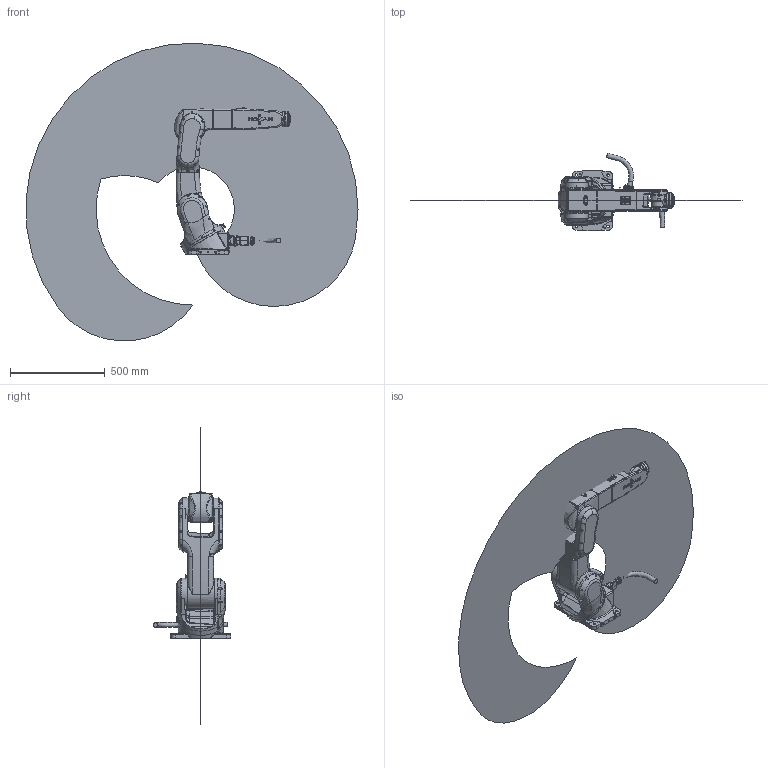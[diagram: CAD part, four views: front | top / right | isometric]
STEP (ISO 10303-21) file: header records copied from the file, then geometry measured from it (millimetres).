
FILE_DESCRIPTION(/* description */ (''),/* implementation_level */ '2;1');
FILE_NAME(/* name */ 'XB12s／_-R906-S1-XBC5线束 简化模型(20220426).stp',/* time_stamp */ '2022-04-26T15:43:50+08:00',/* author */ (''),/* organization */ (''),/* preprocessor_version */ 'ST-DEVELOPER v16',/* originating_system */ 'SIEMENS PLM Software NX 10.0',/* authorisation */ '');
FILE_SCHEMA (('CONFIG_CONTROL_DESIGN'));
Products named in the file (9): XB12-3Dwork-B; XB7&12-xiaobiqian-Blogo; XB7&12-xiaobihou-A; XB7&12-yao-A; XB12-base-B; XB12-shuchu-A; XB7&12-shouwan-A; XB7&12-dabi-B; XB12s／_-R906-S1-XBC5线束 \X2\7B80
53166A21578B\X0\(20220426)
Assembly tree (8 placements, depth 2):
  XB12s／_-R906-S1-XBC5线束 \X2\7B80
53166A21578B\X0\(20220426)
    XB7&12-dabi-B
    XB7&12-shouwan-A
    XB12-shuchu-A
    XB12-base-B
    XB7&12-yao-A
    XB7&12-xiaobihou-A
    XB7&12-xiaobiqian-Blogo
    XB12-3Dwork-B
Bounding box: 1751.35 x 410.23 x 1569.87 mm (x, y, z)
Volume: 27449766.7 mm3; surface area: 3095188.3 mm2
Topology: 9 solids, 25 shells, 3600 faces, 8525 edges, 5118 vertices
Faces by surface type: plane 1274, cylinder 868, bspline 694, cone 320, torus 282, extrusion 132, sphere 30
Full cylindrical faces by diameter (mm): 2.874 x1, 3.3 x8, 4.2 x12, 4.5 x4, 4.75 x4, 4.826 x1, 5 x3, 5.1 x4, 5.13 x8, 5.5 x83, 6 x2, 6.725 x4, 7 x18, 8.5 x10, 9.5 x3, 13.5 x4, 14 x1, 15 x6, 20 x2, 25 x2, 40 x1, 41.226 x2, 45 x1, 47.5 x2, 49.55 x4, 50 x2, 55 x2, 59 x2, 65 x1, 68 x1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
Entity records: 140162 total; most frequent: CARTESIAN_POINT 64746, ORIENTED_EDGE 15724, DIRECTION 14365, EDGE_CURVE 7865, AXIS2_PLACEMENT_3D 5680, VERTEX_POINT 4933, EDGE_LOOP 4198, ADVANCED_FACE 3591
